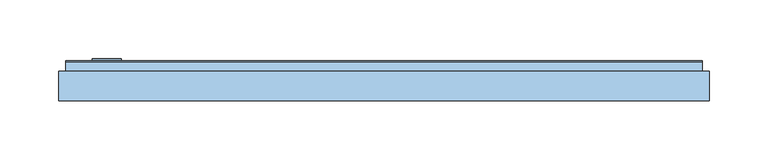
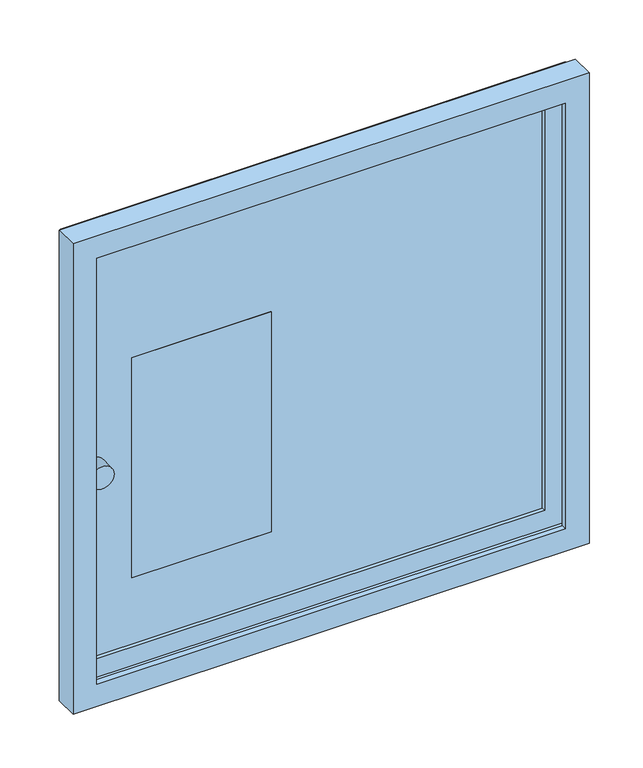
"""IFC4 building model written with IfcOpenShell, lengths in millimetres: window geometry, H109 Puertas nichos chapa y ventana : H109 Puerta nicho OSE."""

from ifc_helpers import new_model, si_unit, point, frame, frame_2d, origin, place, context, project, spatial, polyline, circle_curve, trimmed, segment, composite_curve, outline, extrude, faceted_brep, source, transform, mapped, element, save


def window_ff0e7445(model_context):
    return source(origin(), model_context, "Body", "SolidModel", [
        extrude(outline(composite_curve([segment(trimmed(circle_curve(frame_2d((1045.0, -236.5)), 12.5), [point((1045.0, -249.0))], [point((1045.0, -224.0))], False, "CARTESIAN"), True, "CONTINUOUS"), segment(trimmed(circle_curve(frame_2d((1045.0, -236.5)), 12.5), [point((1045.0, -224.0))], [point((1045.0, -249.0))], False, "CARTESIAN"), True, "CONTINUOUS")], self_intersect=False)), frame((0.0, 35.7, 0.0), z_axis=(0.0, 1.0, 0.0), x_axis=(0.0, 0.0, 1.0)), (0.0, 0.0, 1.0), 20.0),
        extrude(outline(polyline([(-45.4127642, 52.4), (-195.4127642, 52.4), (-195.4127642, 53.7), (-45.4127642, 53.7), (-45.4127642, 52.4)])), frame((0.0, 0.0, 906.7518498), z_axis=(0.0, 0.0, 1.0), x_axis=(1.0, 0.0, 0.0)), (0.0, 0.0, 1.0), 250.0),
        faceted_brep([(271.5, 52.4, 1329.0), (271.5, 27.0, 1329.0), (271.5, 27.0, 806.0), (271.5, 52.4, 806.0), (-271.5, 27.0, 1329.0), (-271.5, 27.0, 806.0), (267.0, 27.0, 810.5), (-267.0, 27.0, 810.5), (-267.0, 27.0, 1324.5), (267.0, 27.0, 1324.5), (-271.5, 52.4, 806.0), (-271.5, 52.4, 1329.0), (246.1, 52.4, 1303.6), (-246.1, 52.4, 1303.6), (-246.1, 52.4, 831.4), (246.1, 52.4, 831.4), (267.0, 47.9, 1324.5), (267.0, 47.9, 810.5), (-267.0, 47.9, 1324.5), (-267.0, 47.9, 810.5), (246.1, 47.9, 831.4), (-246.1, 47.9, 831.4), (-246.1, 47.9, 1303.6), (246.1, 47.9, 1303.6)], [[[0, 1, 2, 3]], [[1, 4, 5, 2], [6, 7, 8, 9]], [[3, 2, 5, 10]], [[3, 10, 11, 0], [12, 13, 14, 15]], [[9, 16, 17, 6]], [[16, 18, 19, 17], [20, 21, 22, 23]], [[6, 17, 19, 7]], [[23, 12, 15, 20]], [[20, 15, 14, 21]], [[10, 5, 4, 11]], [[7, 19, 18, 8]], [[21, 14, 13, 22]], [[11, 4, 1, 0]], [[8, 18, 16, 9]], [[22, 13, 12, 23]]]),
        extrude(outline(polyline([(1329.0, -271.5), (806.0, -271.5), (806.0, 271.5), (1329.0, 271.5), (1329.0, -271.5)]), holes=[polyline([(1156.7518498, -45.4127642), (906.7518498, -45.4127642), (906.7518498, -195.4127642), (1156.7518498, -195.4127642), (1156.7518498, -45.4127642)])]), frame((0.0, 52.4, 0.0), z_axis=(0.0, 1.0, 0.0), x_axis=(0.0, 0.0, 1.0)), (0.0, 0.0, 1.0), 1.3),
        faceted_brep([(-277.5, 19.7, 1335.0), (-277.5, 45.1, 1335.0), (-277.5, 45.1, 800.0), (-277.5, 19.7, 800.0), (277.5, 45.1, 1335.0), (277.5, 45.1, 800.0), (-271.5, 45.1, 806.0), (271.5, 45.1, 806.0), (271.5, 45.1, 1329.0), (-271.5, 45.1, 1329.0), (277.5, 19.7, 800.0), (277.5, 19.7, 1335.0), (-252.1, 19.7, 1309.6), (252.1, 19.7, 1309.6), (252.1, 19.7, 825.4), (-252.1, 19.7, 825.4), (-271.5, 25.7, 1329.0), (-271.5, 25.7, 806.0), (271.5, 25.7, 1329.0), (271.5, 25.7, 806.0), (-252.1, 25.7, 825.4), (252.1, 25.7, 825.4), (252.1, 25.7, 1309.6), (-252.1, 25.7, 1309.6)], [[[0, 1, 2, 3]], [[1, 4, 5, 2], [6, 7, 8, 9]], [[3, 2, 5, 10]], [[3, 10, 11, 0], [12, 13, 14, 15]], [[9, 16, 17, 6]], [[16, 18, 19, 17], [20, 21, 22, 23]], [[6, 17, 19, 7]], [[23, 12, 15, 20]], [[20, 15, 14, 21]], [[10, 5, 4, 11]], [[7, 19, 18, 8]], [[21, 14, 13, 22]], [[11, 4, 1, 0]], [[8, 18, 16, 9]], [[22, 13, 12, 23]]]),
    ])


if __name__ == "__main__":
    model = new_model("IFC4")
    model_context = context("Model", 3, world=origin())
    ifc_project = project(units=[si_unit("LENGTHUNIT", "METRE", prefix="MILLI")], contexts=[model_context])
    site = spatial("IfcSite", under=ifc_project)
    building = spatial("IfcBuilding", under=site)
    placement = place(None, origin())
    window_shape = window_ff0e7445(model_context)
    element("IfcWindow", 1, ObjectType="H109 Puertas nichos chapa y ventana : H109 Puerta nicho OSE", at=placement, inside=building, context=model_context, shape_type="MappedRepresentation", body=[
        mapped(window_shape, transform((0.0, 0.0, 0.0), x_axis=(1.0, 0.0, 0.0), y_axis=(0.0, 1.0, 0.0), z_axis=(0.0, 0.0, 1.0))),
    ])
    save(model, "model.ifc")
